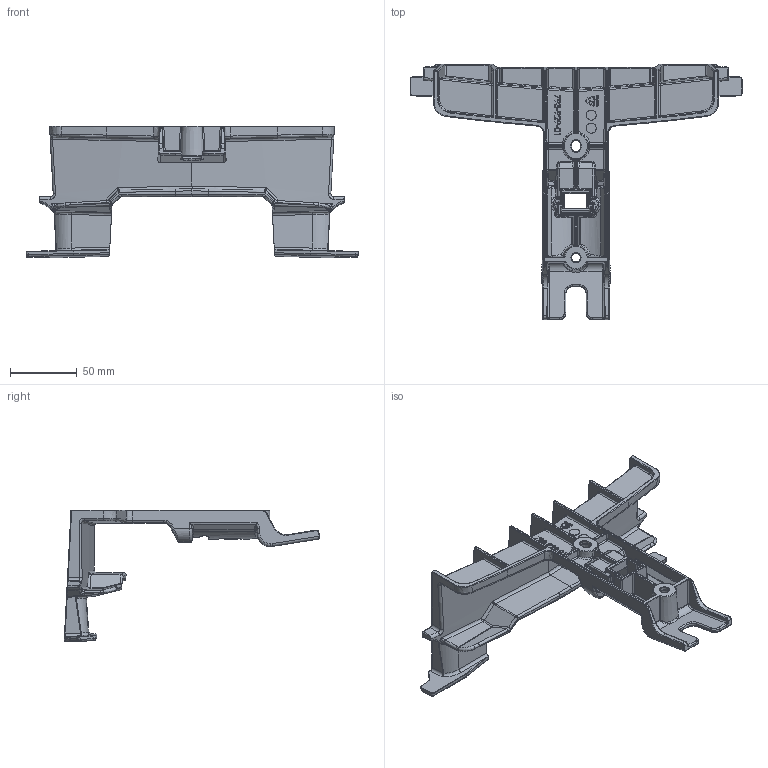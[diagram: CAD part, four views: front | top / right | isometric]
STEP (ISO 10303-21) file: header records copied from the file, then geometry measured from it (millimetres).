
FILE_DESCRIPTION (( 'STEP AP214' ), '1' );
FILE_NAME ('793-929-01_A.step', '2026-07-13T12:53:43', ( '' ), ( '' ), 'SwSTEP 2.0', 'SolidWorks 2025', '' );
FILE_SCHEMA (( 'AUTOMOTIVE_DESIGN' ));
Length unit declared in the file: millimetre
Products named in the file (1): 793-929-01_A
Bounding box: 249.63 x 192.11 x 98.92 mm (x, y, z)
Volume: 179093.7 mm3; surface area: 100646 mm2
Topology: 1 solids, 1 shells, 2750 faces, 6538 edges, 3749 vertices
Faces by surface type: bspline 1355, cylinder 730, plane 476, sphere 105, torus 58, cone 26
Entity records: 110643 total; most frequent: CARTESIAN_POINT 58738, ORIENTED_EDGE 12886, DIRECTION 7984, EDGE_CURVE 6443, VERTEX_POINT 3748, AXIS2_PLACEMENT_3D 2924, EDGE_LOOP 2809, FACE_OUTER_BOUND 2750
